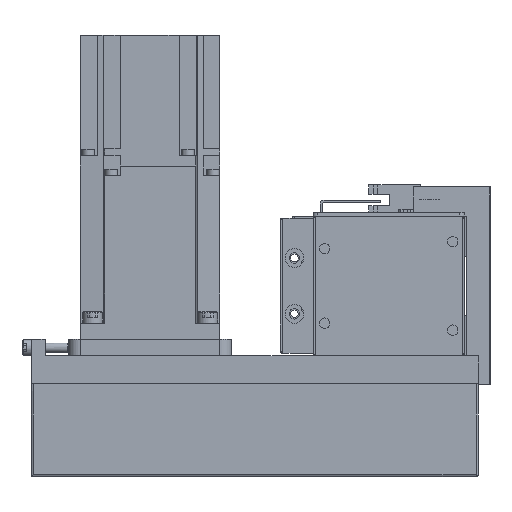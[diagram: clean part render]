
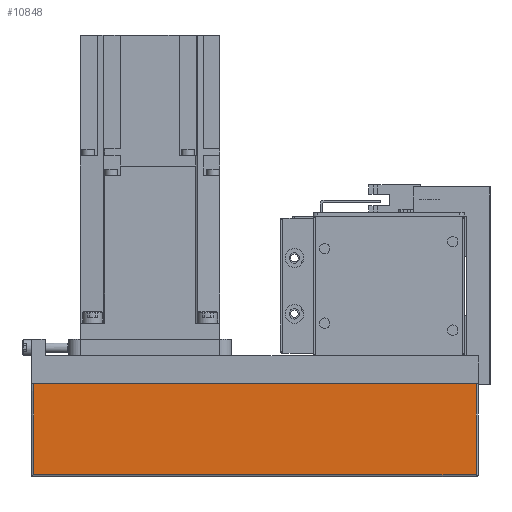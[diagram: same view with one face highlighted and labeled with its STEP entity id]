
A CAD part, left-side view. The second image highlights one B-rep face of the part: STEP entity #10848.
In plain terms, the highlighted planar face has unit normal (-1, 0, 0).
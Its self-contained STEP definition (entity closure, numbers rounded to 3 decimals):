
#2530=ORIENTED_EDGE('',*,*,#4599,.T.);
#2531=ORIENTED_EDGE('',*,*,#4600,.T.);
#2532=ORIENTED_EDGE('',*,*,#4601,.F.);
#2533=ORIENTED_EDGE('',*,*,#4602,.T.);
#4599=EDGE_CURVE('',#5822,#5823,#6862,.T.);
#4600=EDGE_CURVE('',#5823,#5824,#6863,.T.);
#4601=EDGE_CURVE('',#5825,#5824,#6864,.T.);
#4602=EDGE_CURVE('',#5825,#5822,#6865,.T.);
#5822=VERTEX_POINT('',#17426);
#5823=VERTEX_POINT('',#17427);
#5824=VERTEX_POINT('',#17429);
#5825=VERTEX_POINT('',#17431);
#6862=LINE('',#17425,#7910);
#6863=LINE('',#17428,#7911);
#6864=LINE('',#17430,#7912);
#6865=LINE('',#17432,#7913);
#7910=VECTOR('',#14234,1000.);
#7911=VECTOR('',#14235,1000.);
#7912=VECTOR('',#14236,1000.);
#7913=VECTOR('',#14237,1000.);
#8896=EDGE_LOOP('',(#2530,#2531,#2532,#2533));
#9770=FACE_BOUND('',#8896,.T.);
#10318=PLANE('',#11833);
#10848=ADVANCED_FACE('',(#9770),#10318,.T.);
#11833=AXIS2_PLACEMENT_3D('',#17424,#14232,#14233);
#14232=DIRECTION('',(-1.,0.,0.));
#14233=DIRECTION('',(0.,0.,1.));
#14234=DIRECTION('',(0.,0.,1.));
#14235=DIRECTION('',(0.,1.,0.));
#14236=DIRECTION('',(0.,0.,1.));
#14237=DIRECTION('',(0.,-1.,0.));
#17424=CARTESIAN_POINT('',(-40.,151.,-52.));
#17425=CARTESIAN_POINT('',(-40.,-40.,-64.));
#17426=CARTESIAN_POINT('',(-40.,-40.,-51.));
#17427=CARTESIAN_POINT('',(-40.,-40.,-12.01));
#17428=CARTESIAN_POINT('',(-40.,151.,-12.01));
#17429=CARTESIAN_POINT('',(-40.,150.,-12.01));
#17430=CARTESIAN_POINT('',(-40.,150.,-64.));
#17431=CARTESIAN_POINT('',(-40.,150.,-51.));
#17432=CARTESIAN_POINT('',(-40.,200.,-51.));
